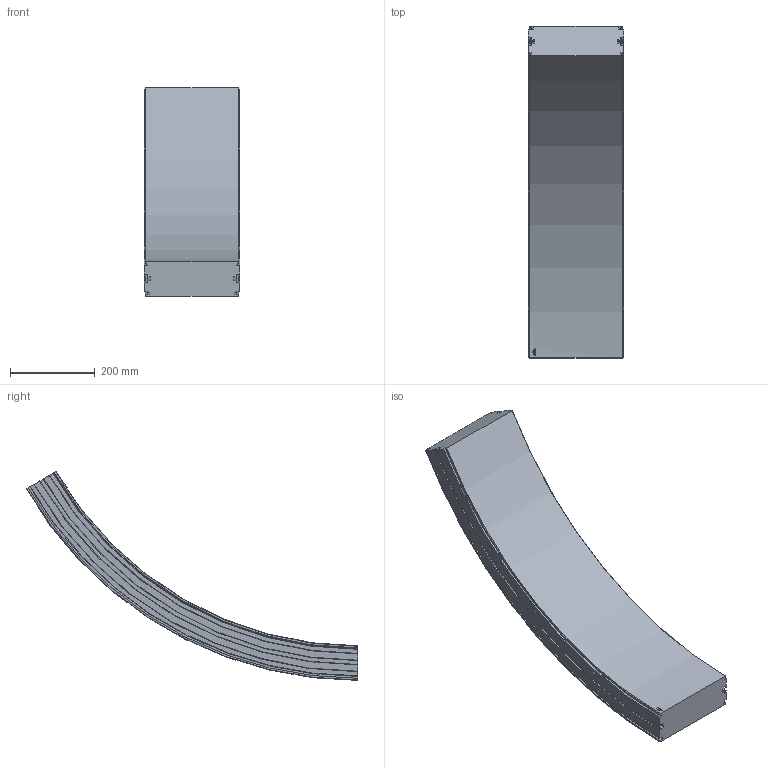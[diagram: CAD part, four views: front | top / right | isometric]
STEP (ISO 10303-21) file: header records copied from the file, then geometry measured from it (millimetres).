
FILE_DESCRIPTION(/* description */ ('VERTIKALKURVA S220 R860'),/* implementation_level */ '2;1');
FILE_NAME(/* name */ '\\carryline.intra\privat\users\mathias\Desktop\Tillfälliga filer\220-5695+220-2000-UPP-01.stp',/* time_stamp */ '2018-11-29T14:58:36+01:00',/* author */ ('MD'),/* organization */ ('CARRYLINE'),/* preprocessor_version */ 'ST-DEVELOPER v17',/* originating_system */ 'Autodesk Inventor 2018',/* authorisation */ '');
FILE_SCHEMA (('AUTOMOTIVE_DESIGN { 1 0 10303 214 3 1 1 }'));
Length unit declared in the file: millimetre
Products named in the file (1): 220-5695+220-2000-UPP-01
Bounding box: 224 x 781.15 x 491.75 mm (x, y, z)
Volume: 15957174.6 mm3; surface area: 715137.5 mm2
Topology: 1 solids, 1 shells, 113 faces, 318 edges, 212 vertices
Faces by surface type: plane 48, cylinder 31, bspline 14, cone 14, torus 6
Entity records: 8349 total; most frequent: CARTESIAN_POINT 5381, ORIENTED_EDGE 636, DIRECTION 576, EDGE_CURVE 318, VERTEX_POINT 212, AXIS2_PLACEMENT_3D 199, LINE 178, VECTOR 178
